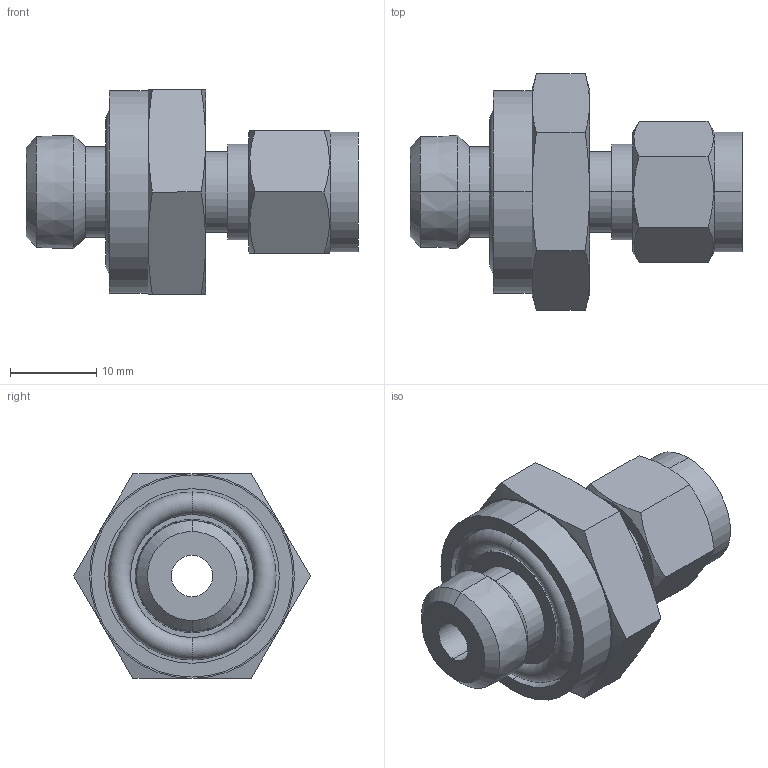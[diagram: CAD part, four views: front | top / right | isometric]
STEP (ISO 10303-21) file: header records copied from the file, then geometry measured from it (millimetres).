
FILE_DESCRIPTION (( 'STEP AP203' ), '1' );
FILE_NAME ('DCM04-04 SS.STEP', '2009-09-08T04:57:15', ( ' ' ), ( '' ), 'SwSTEP 2.0', 'SolidWorks 2008', '' );
FILE_SCHEMA (( 'CONFIG_CONTROL_DESIGN' ));
Length unit declared in the file: millimetre
Products named in the file (1): DCM04-04 SS
Bounding box: 38.6 x 27.49 x 23.81 mm (x, y, z)
Volume: 7906.9 mm3; surface area: 4500.8 mm2
Topology: 2 solids, 2 shells, 66 faces, 144 edges, 88 vertices
Faces by surface type: cone 22, plane 22, cylinder 18, torus 4
Entity records: 2051 total; most frequent: CARTESIAN_POINT 547, DIRECTION 302, ORIENTED_EDGE 288, EDGE_CURVE 144, AXIS2_PLACEMENT_3D 131, VERTEX_POINT 88, EDGE_LOOP 76, ADVANCED_FACE 66
